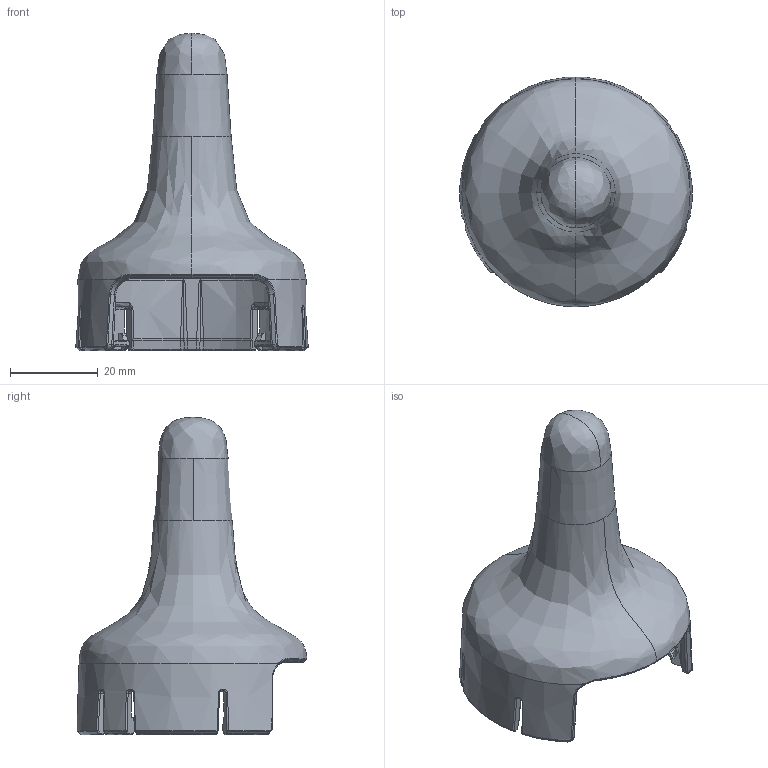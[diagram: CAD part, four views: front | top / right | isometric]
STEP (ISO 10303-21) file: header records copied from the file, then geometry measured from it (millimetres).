
FILE_DESCRIPTION((''),'2;1');
FILE_NAME('YC_SJ_ZS000113_01-JOYSTICK','2026-03-20T11:43:10',('casson.cai'),(''),'CREO PARAMETRIC BY PTC INC, 2022164','CREO PARAMETRIC BY PTC INC, 2022164','');
FILE_SCHEMA(('CONFIG_CONTROL_DESIGN'));
Length unit declared in the file: millimetre
Products named in the file (1): YC_SJ_ZS000113_01-JOYSTICK
Bounding box: 53.06 x 52.47 x 72.45 mm (x, y, z)
Volume: 15634.6 mm3; surface area: 13279.7 mm2
Topology: 1 solids, 1 shells, 599 faces, 1463 edges, 852 vertices
Faces by surface type: bspline 326, torus 83, plane 70, cylinder 54, cone 40, revolution 20, sphere 6
Entity records: 40215 total; most frequent: CARTESIAN_POINT 28788, ORIENTED_EDGE 2894, DIRECTION 1684, EDGE_CURVE 1447, VERTEX_POINT 852, B_SPLINE_CURVE_WITH_KNOTS 799, AXIS2_PLACEMENT_3D 743, EDGE_LOOP 601
